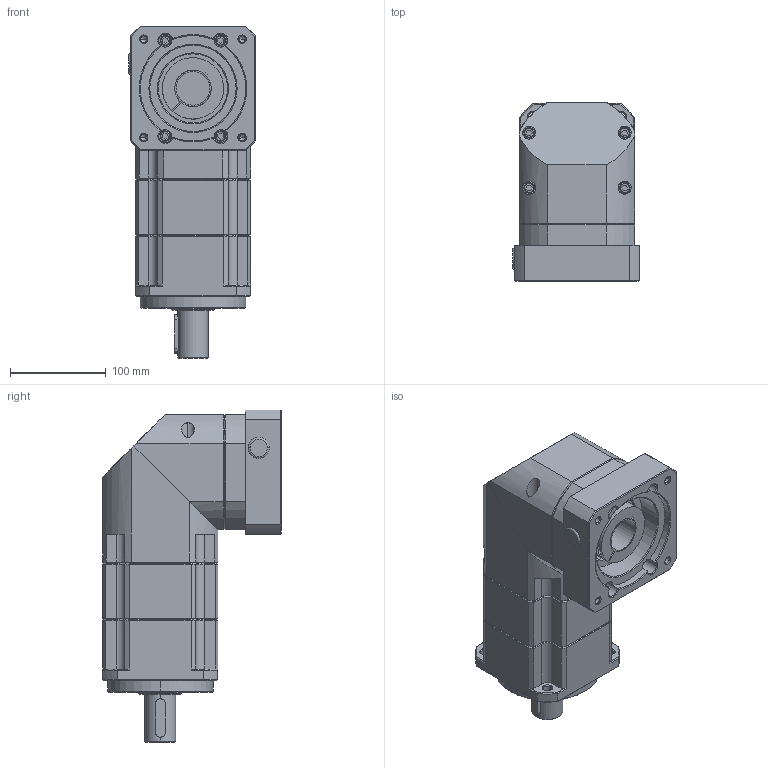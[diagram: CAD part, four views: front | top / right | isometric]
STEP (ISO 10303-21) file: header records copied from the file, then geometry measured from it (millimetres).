
FILE_DESCRIPTION (( 'STEP AP203' ), '1' );
FILE_NAME ('LBR115-(L2)-S2-P2-110145M8.STEP', '2024-11-15T00:29:06', ( '微软用户' ), ( '微软中国' ), 'SwSTEP 2.0', 'SolidWorks 2022', '' );
FILE_SCHEMA (( 'CONFIG_CONTROL_DESIGN' ));
Length unit declared in the file: millimetre
Products named in the file (1): LBR115-(L2)-S2-P2-110145M8
Bounding box: 132 x 186 x 346 mm (x, y, z)
Volume: 4130268.3 mm3; surface area: 331756.7 mm2
Topology: 15 solids, 15 shells, 585 faces, 1339 edges, 809 vertices
Faces by surface type: plane 251, cylinder 171, cone 161, torus 2
Entity records: 16888 total; most frequent: CARTESIAN_POINT 3585, DIRECTION 2843, ORIENTED_EDGE 2658, EDGE_CURVE 1329, AXIS2_PLACEMENT_3D 1073, VERTEX_POINT 809, LINE 697, VECTOR 697
